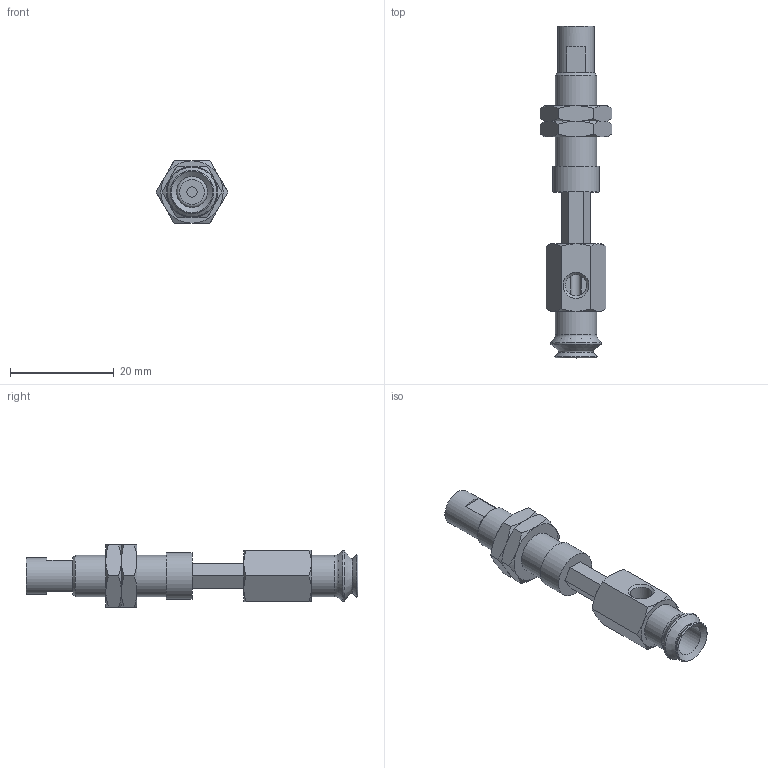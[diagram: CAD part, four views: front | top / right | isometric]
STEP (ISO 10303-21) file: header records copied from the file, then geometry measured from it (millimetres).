
FILE_DESCRIPTION(('STEP AP203'),'1');
FILE_NAME('.stp','2025-04-24T05:53:43',(' '),(' '),'Spatial InterOp 3D',' ',' ');
FILE_SCHEMA(('CONFIG_CONTROL_DESIGN'));
Length unit declared in the file: millimetre
Products named in the file (6): BNABPJYH-8-10-※; CONNECTOR_H-8-10; NAPJH-8-10-NUT; NAPJTH-8-10-FBODY; NAPJTH-8-10-MBODY; BPJG-8-※
Assembly tree (6 placements, depth 2):
  BNABPJYH-8-10-※
    CONNECTOR_H-8-10
    NAPJH-8-10-NUT  x2
    NAPJTH-8-10-FBODY
    NAPJTH-8-10-MBODY
    BPJG-8-※
Bounding box: 13.86 x 64 x 12 mm (x, y, z)
Volume: 3454 mm3; surface area: 4239.3 mm2
Topology: 6 solids, 6 shells, 136 faces, 296 edges, 179 vertices
Faces by surface type: plane 61, cone 52, cylinder 14, torus 9
Full cylindrical faces by diameter (mm): 2 x1, 4 x2, 4.134 x2, 5 x1, 6 x2, 7 x1, 7.188 x2, 8 x2, 9 x1
Entity records: 3384 total; most frequent: CARTESIAN_POINT 818, DIRECTION 468, ORIENTED_EDGE 412, EDGE_CURVE 206, AXIS2_PLACEMENT_3D 196, EDGE_LOOP 164, VERTEX_POINT 144, FACE_OUTER_BOUND 135
